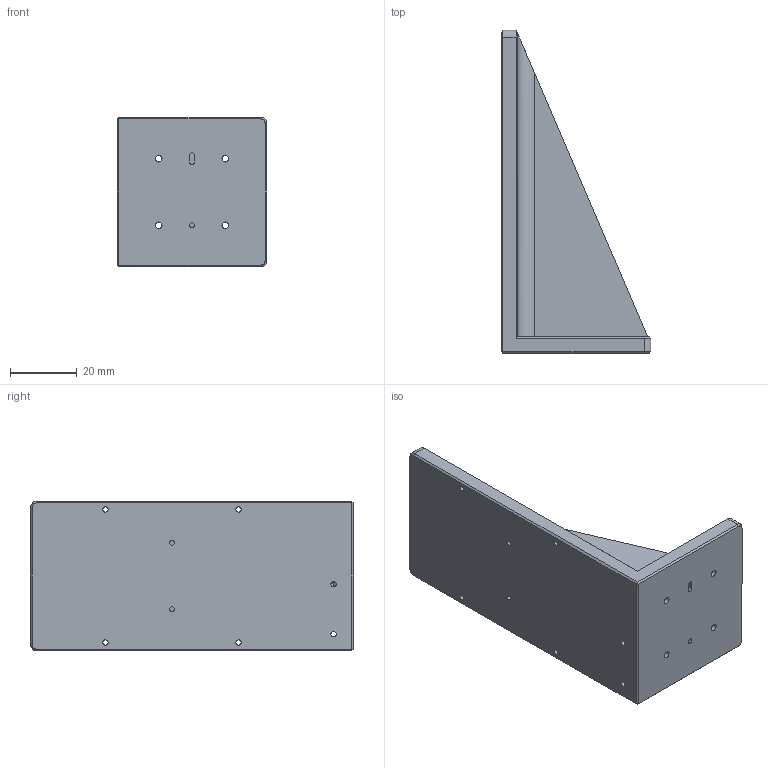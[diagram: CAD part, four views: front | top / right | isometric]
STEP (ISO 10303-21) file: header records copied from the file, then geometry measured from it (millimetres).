
FILE_DESCRIPTION (( 'STEP AP214' ), '1' );
FILE_NAME ('100340_Ver 0_Bracket LL854514.STEP', '2025-02-19T10:28:47', ( '' ), ( '' ), 'SwSTEP 2.0', 'SolidWorks 2021', '' );
FILE_SCHEMA (( 'AUTOMOTIVE_DESIGN' ));
Length unit declared in the file: millimetre
Products named in the file (1): 100340_Ver 0_Bracket LL854514
Bounding box: 45 x 97 x 45 mm (x, y, z)
Volume: 45705.7 mm3; surface area: 17114 mm2
Topology: 1 solids, 1 shells, 77 faces, 187 edges, 115 vertices
Faces by surface type: cylinder 35, plane 32, cone 10
Entity records: 2437 total; most frequent: DIRECTION 415, CARTESIAN_POINT 384, ORIENTED_EDGE 370, EDGE_CURVE 185, AXIS2_PLACEMENT_3D 154, VERTEX_POINT 115, VECTOR 107, LINE 107
